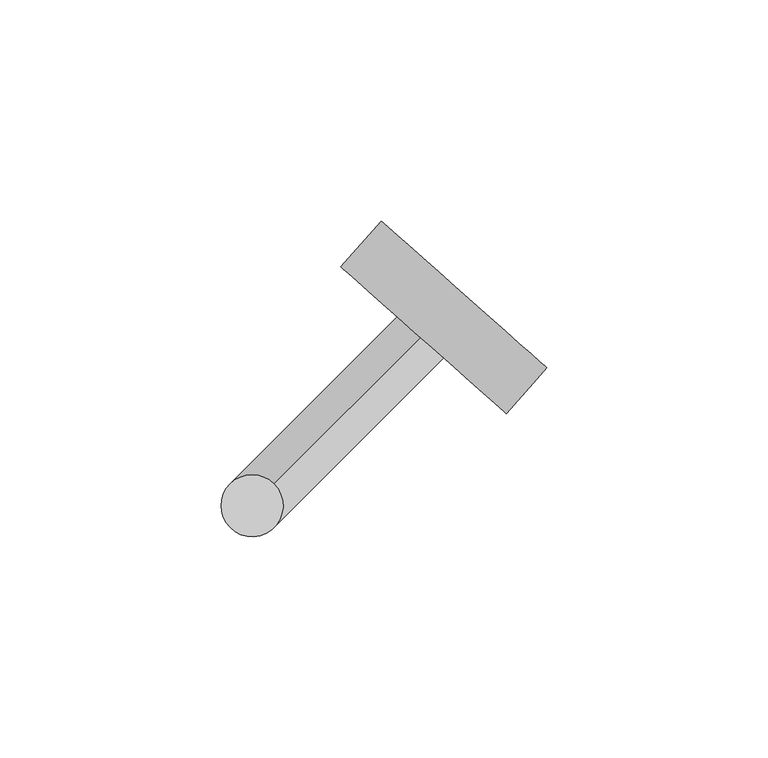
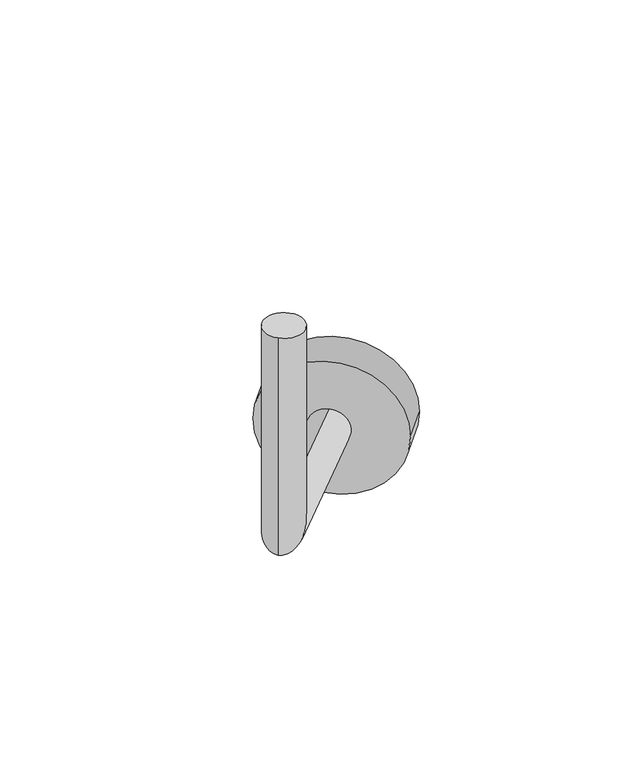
"""IFC4 building model written with IfcOpenShell, lengths in millimetres: proxy geometry, Soportes 1 : Soportes 1."""

from ifc_helpers import new_model, si_unit, point, frame, frame_2d, origin, place, context, project, spatial, circle_curve, ellipse_curve, trimmed, segment, composite_curve, outline, extrude, source, transform, mapped, element, save
from ifc_brep_helpers import plane_surface, cylinder_surface, advanced_brep


def building_element_proxy_b1144b5f(model_context):
    return source(origin(), model_context, "Body", "SolidModel", [
        advanced_brep(
        [(17195.4001463, 3987.2387398, 772.7160158), (17195.4001463, 3987.2387398, 786.7160158), (17151.5595259, 3943.3981194, 772.7160158), (17161.4590208, 3953.2976143, 786.7160158), (17151.5595259, 3943.3981194, 855.0), (17161.4590208, 3953.2976143, 855.0)],
        [
            (0, 1, circle_curve(frame((17195.4001463, 3987.2387398, 779.7160158), z_axis=(0.7071067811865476, 0.7071067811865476, 0.0), x_axis=(0.0, 0.0, 1.0)), 7.0)),
            (1, 0, circle_curve(frame((17195.4001463, 3987.2387398, 779.7160158), z_axis=(0.7071067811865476, 0.7071067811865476, 0.0), x_axis=(0.0, 0.0, 1.0)), 7.0)),
            (0, 2),
            (2, 3, ellipse_curve(frame((17156.5092733, 3948.3478669, 779.7160158), z_axis=(0.5000000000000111, 0.5000000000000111, -0.7071067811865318), x_axis=(0.499999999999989, 0.499999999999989, 0.7071067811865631)), 9.8994949, 7.0)),
            (3, 1),
            (3, 2, ellipse_curve(frame((17156.5092733, 3948.3478669, 779.7160158), z_axis=(0.5000000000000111, 0.5000000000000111, -0.7071067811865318), x_axis=(0.499999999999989, 0.499999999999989, 0.7071067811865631)), 9.8994949, 7.0)),
            (4, 5, circle_curve(frame((17156.5092733, 3948.3478669, 855.0), z_axis=(0.0, 0.0, 1.0), x_axis=(0.7071067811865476, 0.7071067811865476, 0.0)), 7.0)),
            (5, 4, circle_curve(frame((17156.5092733, 3948.3478669, 855.0), z_axis=(0.0, 0.0, 1.0), x_axis=(0.7071067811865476, 0.7071067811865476, 0.0)), 7.0)),
            (2, 4),
            (5, 3),
        ],
        [
            plane_surface(frame((17195.4001463, 3987.2387398, 779.7160158), z_axis=(0.7071067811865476, 0.7071067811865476, 0.0), x_axis=(-0.7071067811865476, 0.7071067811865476, 0.0))),
            cylinder_surface(frame((17195.4001463, 3987.2387398, 779.7160158), z_axis=(0.7071067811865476, 0.7071067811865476, 0.0), x_axis=(0.0, 0.0, 1.0)), 7.0),
            plane_surface(frame((17156.5092733, 3948.3478669, 855.0), z_axis=(0.0, 0.0, 1.0000000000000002), x_axis=(-0.7071067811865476, 0.7071067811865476, 0.0))),
            cylinder_surface(frame((17156.5092733, 3948.3478669, 779.7160158), z_axis=(0.0, 0.0, -1.0000000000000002), x_axis=(0.7071067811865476, 0.7071067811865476, 0.0)), 7.0),
        ],
        [
            (0, [[1, 2]]),
            (1, [[-1, 3, 4, 5]]),
            (1, [[-2, -5, 6, -3]]),
            (2, [[7, 8]]),
            (3, [[-4, 9, -8, 10]]),
            (3, [[-6, -10, -7, -9]]),
        ],
    ),
        extrude(outline(composite_curve([segment(trimmed(circle_curve(frame_2d((0.0, -25.0)), 25.0), [point((0.0, -50.0))], [point((0.0, 0.0))], False, "CARTESIAN"), True, "CONTINUOUS"), segment(trimmed(circle_curve(frame_2d((0.0, -25.0)), 25.0), [point((0.0, 0.0))], [point((0.0, -50.0))], False, "CARTESIAN"), True, "CONTINUOUS")], self_intersect=False)), frame((17176.5819299, 4002.3313934, 780.0), z_axis=(0.6634256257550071, 0.7482422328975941, 0.0), x_axis=(0.0, 0.0, -1.0)), (0.0, 0.0, 1.0), 13.8161294),
    ])


if __name__ == "__main__":
    model = new_model("IFC4")
    model_context = context("Model", 3, world=origin())
    ifc_project = project(units=[si_unit("LENGTHUNIT", "METRE", prefix="MILLI")], contexts=[model_context])
    site = spatial("IfcSite", under=ifc_project)
    building = spatial("IfcBuilding", under=site)
    placement = place(None, origin())
    building_element_proxy_shape = building_element_proxy_b1144b5f(model_context)
    element("IfcBuildingElementProxy", 1, Name="Soportes 1 : Soportes 1", ObjectType="Soportes 1 : Soportes 1", at=placement, inside=building, context=model_context, shape_type="MappedRepresentation", body=[
        mapped(building_element_proxy_shape, transform((0.0, 0.0, 0.0), x_axis=(1.0, 0.0, 0.0), y_axis=(0.0, 1.0, 0.0), z_axis=(0.0, 0.0, 1.0))),
    ])
    save(model, "model.ifc")
